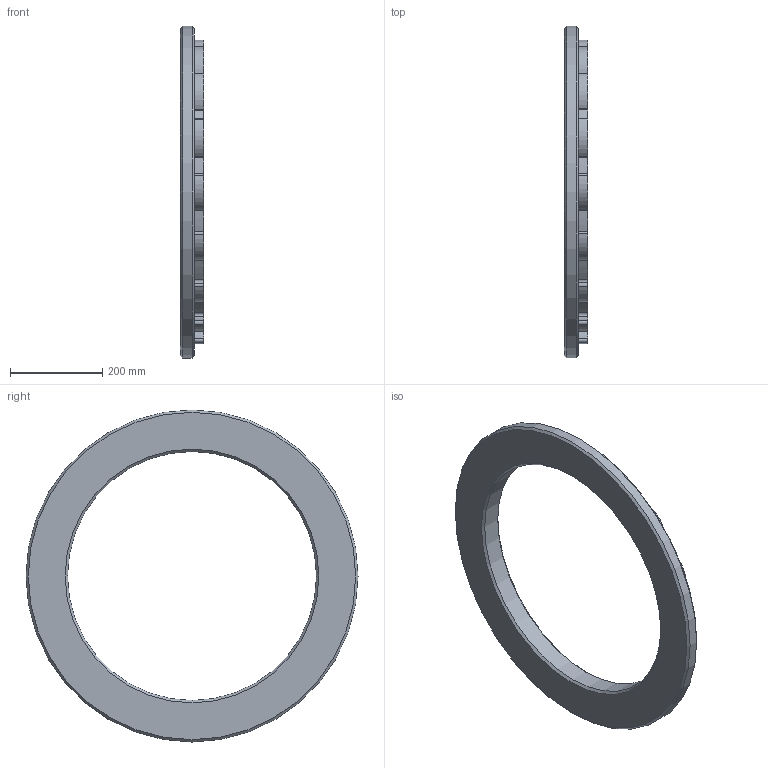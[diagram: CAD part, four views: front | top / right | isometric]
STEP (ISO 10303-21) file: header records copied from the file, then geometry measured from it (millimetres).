
FILE_DESCRIPTION(/* description */ (''),/* implementation_level */ '2;1');
FILE_NAME(/* name */ 'C:\Users\jbart\OneDrive\Plocha\Nová složka\3D modely - stp\Bočnice - pravá.stp',/* time_stamp */ '2025-05-15T16:45:55+02:00',/* author */ ('jbart'),/* organization */ (''),/* preprocessor_version */ 'ST-DEVELOPER v18.1',/* originating_system */ 'Autodesk Inventor 2022',/* authorisation */ '');
FILE_SCHEMA (('AUTOMOTIVE_DESIGN { 1 0 10303 214 3 1 1 }'));
Length unit declared in the file: millimetre
Products named in the file (1): Bočnice - pravá
Bounding box: 50 x 720 x 720 mm (x, y, z)
Volume: 6708638.1 mm3; surface area: 546161.2 mm2
Topology: 1 solids, 1 shells, 105 faces, 305 edges, 203 vertices
Faces by surface type: cylinder 98, cone 4, plane 3
Full cylindrical faces by diameter (mm): 540 x1, 720 x1
Entity records: 3639 total; most frequent: DIRECTION 720, CARTESIAN_POINT 614, ORIENTED_EDGE 610, AXIS2_PLACEMENT_3D 309, EDGE_CURVE 305, CIRCLE 203, VERTEX_POINT 203, EDGE_LOOP 108
